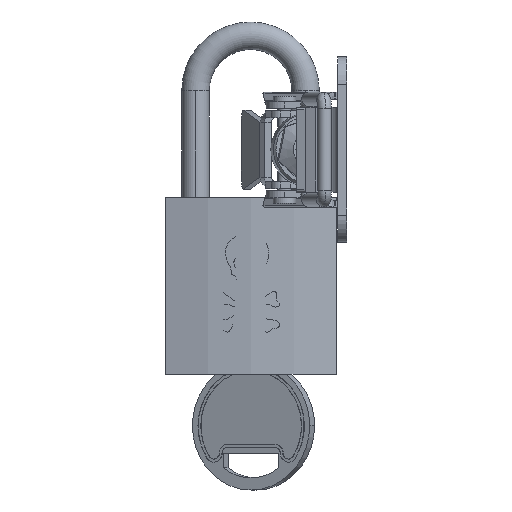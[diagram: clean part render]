
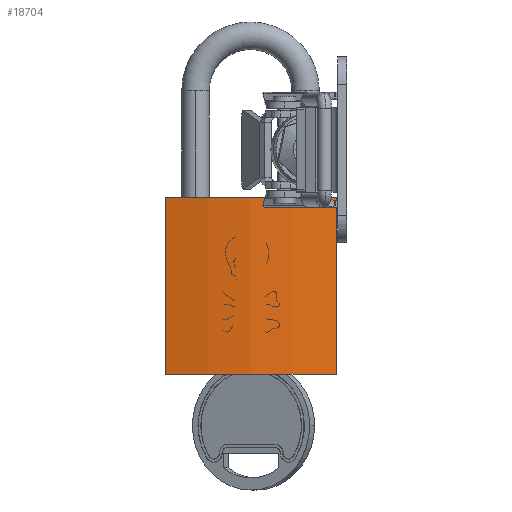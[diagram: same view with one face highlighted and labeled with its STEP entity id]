
A CAD part, left-side view. The second image highlights one B-rep face of the part: STEP entity #18704.
In plain terms, the highlighted cylindrical face has radius 66.667 mm (diameter 133.333 mm), a partial arc.
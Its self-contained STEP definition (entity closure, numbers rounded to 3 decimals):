
#169 = VERTEX_POINT ( 'NONE', #4401 ) ;
#208 = DIRECTION ( 'NONE',  ( 0., -1., 0. ) ) ;
#2470 = AXIS2_PLACEMENT_3D ( 'NONE', #16466, #208, #5121 ) ;
#3827 = VERTEX_POINT ( 'NONE', #12556 ) ;
#4314 = DIRECTION ( 'NONE',  ( 0., 1., 0. ) ) ;
#4401 = CARTESIAN_POINT ( 'NONE',  ( -6.667, 33.55, -19.043 ) ) ;
#4676 = EDGE_CURVE ( 'NONE', #3827, #17937, #11704, .T. ) ;
#4850 = CARTESIAN_POINT ( 'NONE',  ( 57.333, 33.55, -0.376 ) ) ;
#5121 = DIRECTION ( 'NONE',  ( 0., 0., -1. ) ) ;
#5457 = ORIENTED_EDGE ( 'NONE', *, *, #15792, .F. ) ;
#6092 = DIRECTION ( 'NONE',  ( 0., -1., 0. ) ) ;
#6282 = ORIENTED_EDGE ( 'NONE', *, *, #19098, .T. ) ;
#6475 = DIRECTION ( 'NONE',  ( 0., 0., 1. ) ) ;
#7210 = EDGE_CURVE ( 'NONE', #8014, #17937, #19225, .T. ) ;
#7594 = CIRCLE ( 'NONE', #12673, 66.667 ) ;
#8014 = VERTEX_POINT ( 'NONE', #14485 ) ;
#8444 = AXIS2_PLACEMENT_3D ( 'NONE', #13990, #4314, #15627 ) ;
#8649 = CARTESIAN_POINT ( 'NONE',  ( -6.667, 33.55, 18.291 ) ) ;
#9664 = ORIENTED_EDGE ( 'NONE', *, *, #7210, .F. ) ;
#11704 = CIRCLE ( 'NONE', #8444, 66.667 ) ;
#12532 = CARTESIAN_POINT ( 'NONE',  ( -6.667, 33.55, -19.043 ) ) ;
#12556 = CARTESIAN_POINT ( 'NONE',  ( -6.667, -5.116, -19.043 ) ) ;
#12673 = AXIS2_PLACEMENT_3D ( 'NONE', #4850, #16186, #6475 ) ;
#13308 = CYLINDRICAL_SURFACE ( 'NONE', #2470, 66.667 ) ;
#13833 = EDGE_LOOP ( 'NONE', ( #15220, #9664, #5457, #6282 ) ) ;
#13841 = FACE_OUTER_BOUND ( 'NONE', #13833, .T. ) ;
#13990 = CARTESIAN_POINT ( 'NONE',  ( 57.333, -5.116, -0.376 ) ) ;
#14485 = CARTESIAN_POINT ( 'NONE',  ( -6.667, 33.55, 18.291 ) ) ;
#14902 = VECTOR ( 'NONE', #19971, 1000. ) ;
#15220 = ORIENTED_EDGE ( 'NONE', *, *, #4676, .T. ) ;
#15627 = DIRECTION ( 'NONE',  ( 0., 0., 1. ) ) ;
#15792 = EDGE_CURVE ( 'NONE', #169, #8014, #7594, .T. ) ;
#15853 = VECTOR ( 'NONE', #6092, 1000. ) ;
#16186 = DIRECTION ( 'NONE',  ( 0., 1., 0. ) ) ;
#16466 = CARTESIAN_POINT ( 'NONE',  ( 57.333, 33.55, -0.376 ) ) ;
#17937 = VERTEX_POINT ( 'NONE', #18984 ) ;
#18704 = ADVANCED_FACE ( 'NONE', ( #13841 ), #13308, .T. ) ;
#18984 = CARTESIAN_POINT ( 'NONE',  ( -6.667, -5.116, 18.291 ) ) ;
#19098 = EDGE_CURVE ( 'NONE', #169, #3827, #20141, .T. ) ;
#19225 = LINE ( 'NONE', #8649, #14902 ) ;
#19971 = DIRECTION ( 'NONE',  ( 0., -1., 0. ) ) ;
#20141 = LINE ( 'NONE', #12532, #15853 ) ;
